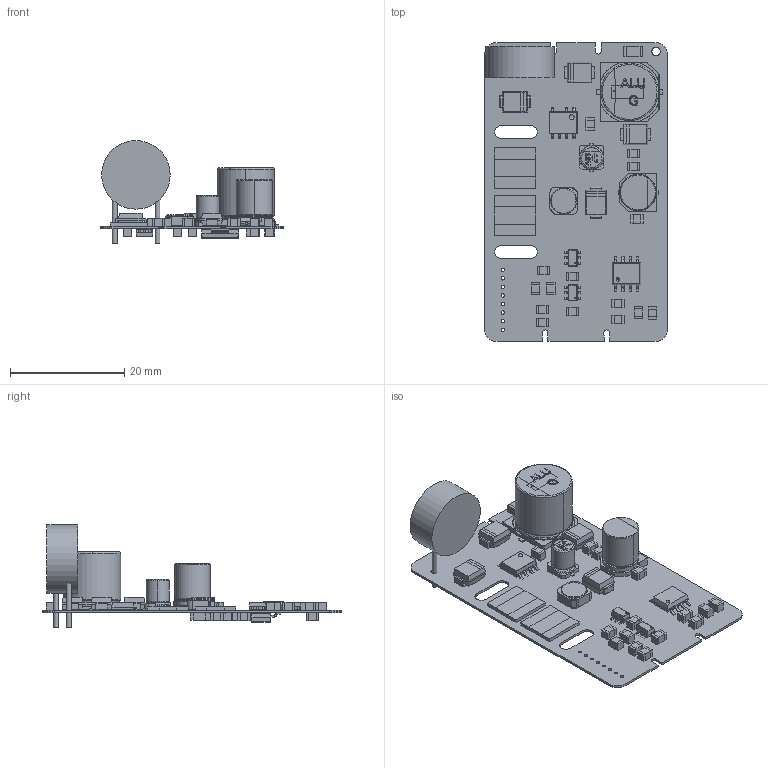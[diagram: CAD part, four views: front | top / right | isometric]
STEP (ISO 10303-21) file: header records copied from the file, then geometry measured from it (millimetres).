
FILE_DESCRIPTION(('Open CASCADE Model'),'2;1');
FILE_NAME('Open CASCADE Shape Model','2019-05-29T14:18:13',('Author'),( 'Open CASCADE'),'Open CASCADE STEP processor 6.5','Open CASCADE 6.5' ,'Unknown');
FILE_SCHEMA(('AUTOMOTIVE_DESIGN { 1 0 10303 214 1 1 1 1 }'));
Length unit declared in the file: millimetre
Products named in the file (84): PCB; Board; U4; INA181A4IDBVR; Body; PinsArrayLR; C8; 554825104; Extruded; 554824720; R12; 554824208; 554827152; R11; C7; C6; U3; Rshunt1; 554824848; 554824976; U2; User_Library-SO8C-_pin_3; U1; sop-8; RV1; 72853096; Cylinder; 72852856; R20; R19; R18; R10; R9; R8; R7; 554827280; 554827408; R5; R4; R3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
Assembly tree (163 placements, depth 4):
  PCB
    Board
    U4
      INA181A4IDBVR
        Body
        PinsArrayLR
    C8
      554825104  x2
        Extruded
      554824720
        Extruded
    R12
      554824208  x2
        Extruded
      554827152
        Extruded
    R11
      554824208  x2
        Extruded
      554827152
        Extruded
    C7
      554825104  x2
        Extruded
      554824720
        Extruded
    C6
      554825104  x2
        Extruded
      554824720
        Extruded
    U3
      INA181A4IDBVR
        Body
        PinsArrayLR
    Rshunt1
      554824848  x2
        Extruded
      554824976
        Extruded
    U2
      User_Library-SO8C-_pin_3
    U1
      sop-8
    RV1
      72853096  x2
        Cylinder
      72852856
        Cylinder
    R20
      554825104  x2
        Extruded
      554824720
        Extruded
    R19
      554825104  x2
        Extruded
      554824720
        Extruded
    R18
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Bounding box: 32.03 x 52.23 x 18 mm (x, y, z)
Volume: 2907.4 mm3; surface area: 6734.5 mm2
Topology: 123 solids, 123 shells, 1999 faces, 4843 edges, 3078 vertices
Faces by surface type: plane 1478, cylinder 341, bspline 154, torus 12, sphere 8, cone 6
Full cylindrical faces by diameter (mm): 0.2 x3, 0.6 x8, 0.85 x2, 1.067 x2, 1.5 x1, 12 x1
Entity records: 100302 total; most frequent: CARTESIAN_POINT 34340, DIRECTION 9937, ORIENTED_EDGE 6120, PCURVE 6120, DEFINITIONAL_REPRESENTATION 6120, LINE 6057, VECTOR 6057, EDGE_CURVE 3060
